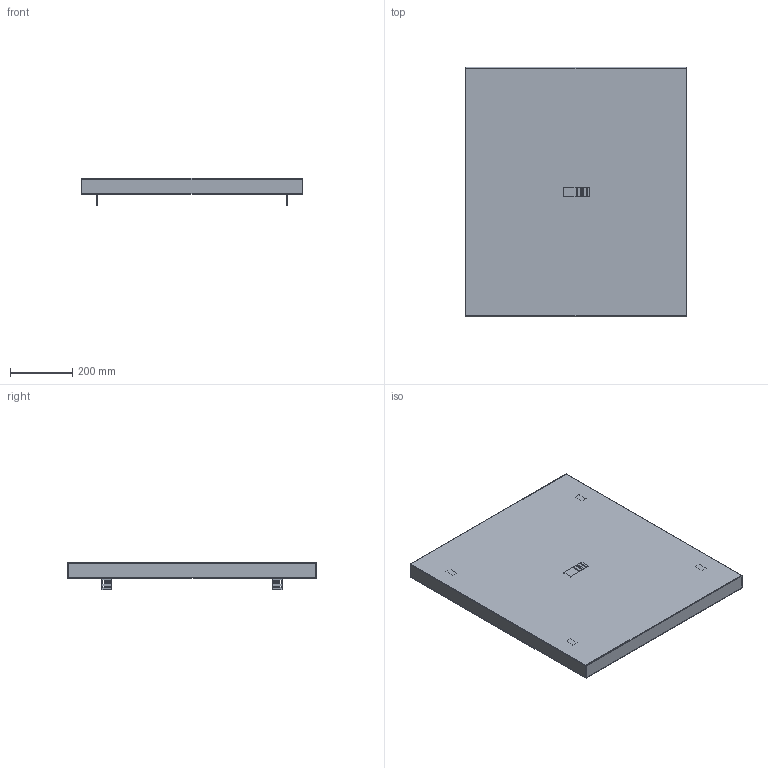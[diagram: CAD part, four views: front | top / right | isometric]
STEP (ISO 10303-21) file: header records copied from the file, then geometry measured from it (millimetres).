
FILE_DESCRIPTION( ( 'Unknown' ), '1' );
FILE_NAME( 'Q:/C2/WEB DRAWINGS/STEP/C2T2431R.stp', 'Unknown', ( 'Unknown' ), ( 'Unknown' ), 'XStep 1.0', 'Unknown', ' ' );
FILE_SCHEMA( ( 'CONFIG_CONTROL_DESIGN' ) );
Length unit declared in the file: millimetre
Products named in the file (3): Assem1; 1; 2
Bounding box: 711.2 x 800.1 x 87.55 mm (x, y, z)
Volume: 2197518 mm3; surface area: 3032213.5 mm2
Topology: 7 solids, 7 shells, 254 faces, 624 edges, 384 vertices
Faces by surface type: plane 196, cylinder 42, bspline 16
Entity records: 2816 total; most frequent: CARTESIAN_POINT 714, ORIENTED_EDGE 408, DIRECTION 380, EDGE_CURVE 204, LINE 168, VECTOR 168, VERTEX_POINT 120, AXIS2_PLACEMENT_3D 106
